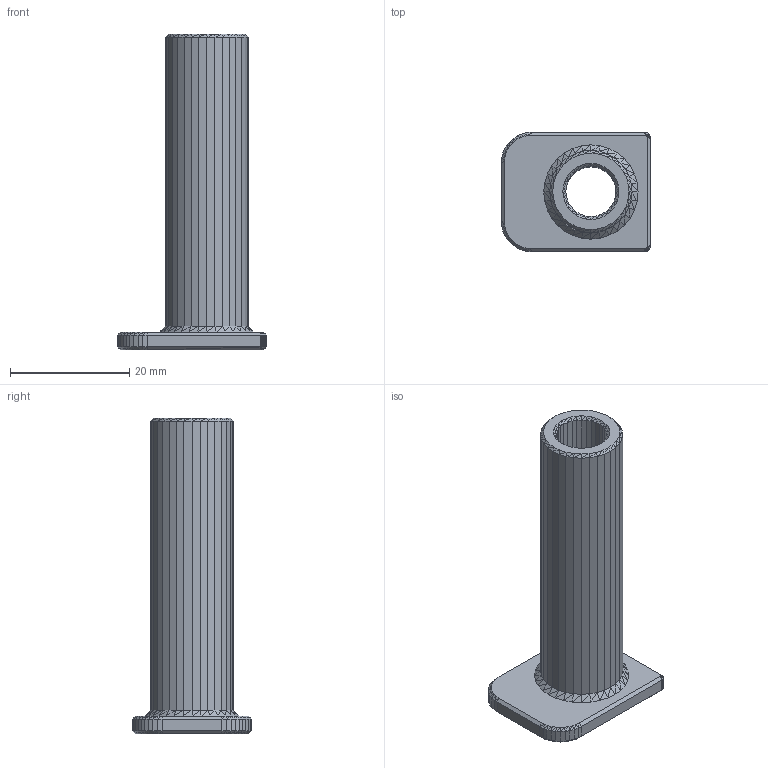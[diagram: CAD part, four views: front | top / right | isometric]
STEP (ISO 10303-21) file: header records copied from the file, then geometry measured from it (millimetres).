
FILE_DESCRIPTION(('Open CASCADE Model'),'2;1');
FILE_NAME('Open CASCADE Shape Model','2026-08-09T08:59:06',('Author'),( 'Open CASCADE'),'Open CASCADE STEP processor 7.9','Open CASCADE 7.9' ,'Unknown');
FILE_SCHEMA(('AUTOMOTIVE_DESIGN { 1 0 10303 214 1 1 1 1 }'));
Length unit declared in the file: millimetre
Products named in the file (1): Open CASCADE STEP translator 7.9 3
Bounding box: 25.01 x 20.01 x 53 mm (x, y, z)
Volume: 5968.9 mm3; surface area: 4592.8 mm2
Topology: 1 solids, 1 shells, 541 faces, 972 edges, 434 vertices
Faces by surface type: plane 541
Entity records: 24244 total; most frequent: CARTESIAN_POINT 4308, DIRECTION 3584, LINE 2500, VECTOR 2500, ORIENTED_EDGE 1944, PCURVE 1944, DEFINITIONAL_REPRESENTATION 1944, EDGE_CURVE 972
